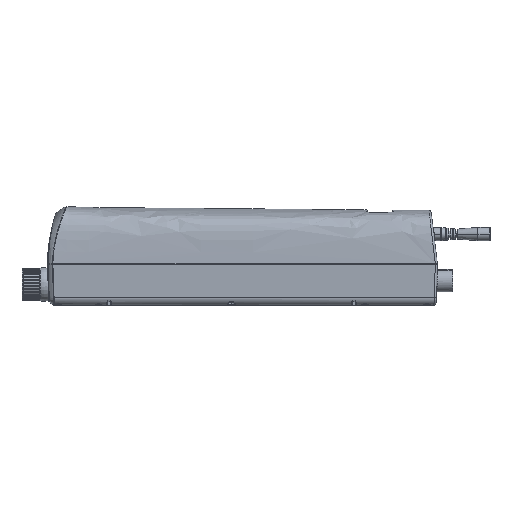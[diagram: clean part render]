
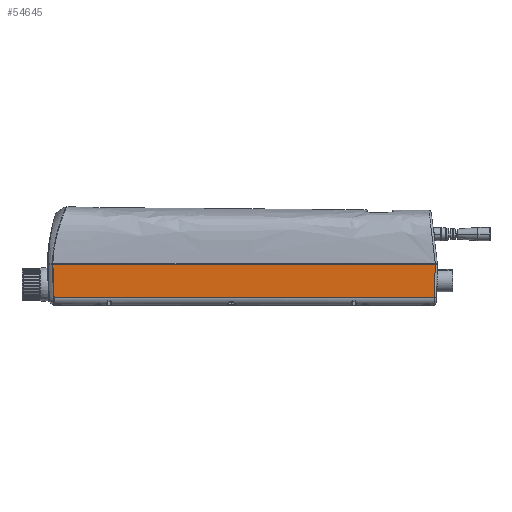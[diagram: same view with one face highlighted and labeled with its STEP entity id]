
A CAD part, left-side view. The second image highlights one B-rep face of the part: STEP entity #54645.
In plain terms, the highlighted planar face has unit normal (-0.999, 0, -0.035).
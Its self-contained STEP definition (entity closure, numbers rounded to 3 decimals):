
#5773 = CARTESIAN_POINT ( 'NONE',  ( -51.886, 181.571, -31.913 ) ) ;
#9385 = VECTOR ( 'NONE', #41767, 1000. ) ;
#10633 = VERTEX_POINT ( 'NONE', #72904 ) ;
#13184 = CARTESIAN_POINT ( 'NONE',  ( -52.792, 182.493, -5.963 ) ) ;
#13505 = CARTESIAN_POINT ( 'NONE',  ( -51.838, 181.522, -33.279 ) ) ;
#15156 = VECTOR ( 'NONE', #42538, 1000. ) ;
#15376 = CARTESIAN_POINT ( 'NONE',  ( -51.838, -191.839, -33.279 ) ) ;
#15491 = CARTESIAN_POINT ( 'NONE',  ( -52.983, 182.684, -0.5 ) ) ;
#20879 = EDGE_LOOP ( 'NONE', ( #36882, #69154, #77109, #37152 ) ) ;
#26649 = VERTEX_POINT ( 'NONE', #37648 ) ;
#26749 = VERTEX_POINT ( 'NONE', #15376 ) ;
#26783 = PLANE ( 'NONE',  #56872 ) ;
#27119 = DIRECTION ( 'NONE',  ( 0.999, 0., 0.035 ) ) ;
#27651 = VECTOR ( 'NONE', #73624, 1000. ) ;
#29855 = LINE ( 'NONE', #95735, #9385 ) ;
#36442 = CARTESIAN_POINT ( 'NONE',  ( -52.601, 182.3, -11.427 ) ) ;
#36882 = ORIENTED_EDGE ( 'NONE', *, *, #96336, .T. ) ;
#37152 = ORIENTED_EDGE ( 'NONE', *, *, #55311, .T. ) ;
#37648 = CARTESIAN_POINT ( 'NONE',  ( -51.838, 181.522, -33.279 ) ) ;
#41767 = DIRECTION ( 'NONE',  ( -0.035, -0.035, 0.999 ) ) ;
#42538 = DIRECTION ( 'NONE',  ( 0., 1., 0. ) ) ;
#44187 = CARTESIAN_POINT ( 'NONE',  ( -52.172, 181.863, -23.719 ) ) ;
#45154 = B_SPLINE_CURVE_WITH_KNOTS ( 'NONE', 3,
 ( #74977, #13184, #36442, #90450, #44187, #98152, #51956, #5773, #59734, #13505 ),
 .UNSPECIFIED., .F., .F.,
 ( 4, 2, 1, 1, 2, 4 ),
 ( 0.001, 0.017, 0.025, 0.029, 0.031, 0.033 ),
 .UNSPECIFIED. ) ;
#50324 = CARTESIAN_POINT ( 'NONE',  ( -52.983, 192.015, -0.5 ) ) ;
#51956 = CARTESIAN_POINT ( 'NONE',  ( -51.933, 181.619, -30.548 ) ) ;
#54645 = ADVANCED_FACE ( 'NONE', ( #89354 ), #26783, .F. ) ;
#55311 = EDGE_CURVE ( 'NONE', #26649, #26749, #68719, .T. ) ;
#56872 = AXIS2_PLACEMENT_3D ( 'NONE', #73415, #27119, #81153 ) ;
#58374 = EDGE_CURVE ( 'NONE', #10633, #97104, #74368, .T. ) ;
#58403 = CARTESIAN_POINT ( 'NONE',  ( -51.838, 192.015, -33.279 ) ) ;
#59734 = CARTESIAN_POINT ( 'NONE',  ( -51.862, 181.547, -32.596 ) ) ;
#68719 = LINE ( 'NONE', #58403, #27651 ) ;
#69154 = ORIENTED_EDGE ( 'NONE', *, *, #58374, .T. ) ;
#72904 = CARTESIAN_POINT ( 'NONE',  ( -52.983, -192.984, -0.5 ) ) ;
#73415 = CARTESIAN_POINT ( 'NONE',  ( -53., 192.015, 0. ) ) ;
#73624 = DIRECTION ( 'NONE',  ( 0., -1., 0. ) ) ;
#74368 = LINE ( 'NONE', #50324, #15156 ) ;
#74977 = CARTESIAN_POINT ( 'NONE',  ( -52.983, 182.684, -0.5 ) ) ;
#77109 = ORIENTED_EDGE ( 'NONE', *, *, #98500, .T. ) ;
#81153 = DIRECTION ( 'NONE',  ( 0.035, 0., -0.999 ) ) ;
#89354 = FACE_OUTER_BOUND ( 'NONE', #20879, .T. ) ;
#90450 = CARTESIAN_POINT ( 'NONE',  ( -52.315, 182.009, -19.621 ) ) ;
#95735 = CARTESIAN_POINT ( 'NONE',  ( -52.532, -192.533, -13.412 ) ) ;
#96336 = EDGE_CURVE ( 'NONE', #26749, #10633, #29855, .T. ) ;
#97104 = VERTEX_POINT ( 'NONE', #15491 ) ;
#98152 = CARTESIAN_POINT ( 'NONE',  ( -52.005, 181.693, -28.499 ) ) ;
#98500 = EDGE_CURVE ( 'NONE', #97104, #26649, #45154, .T. ) ;
